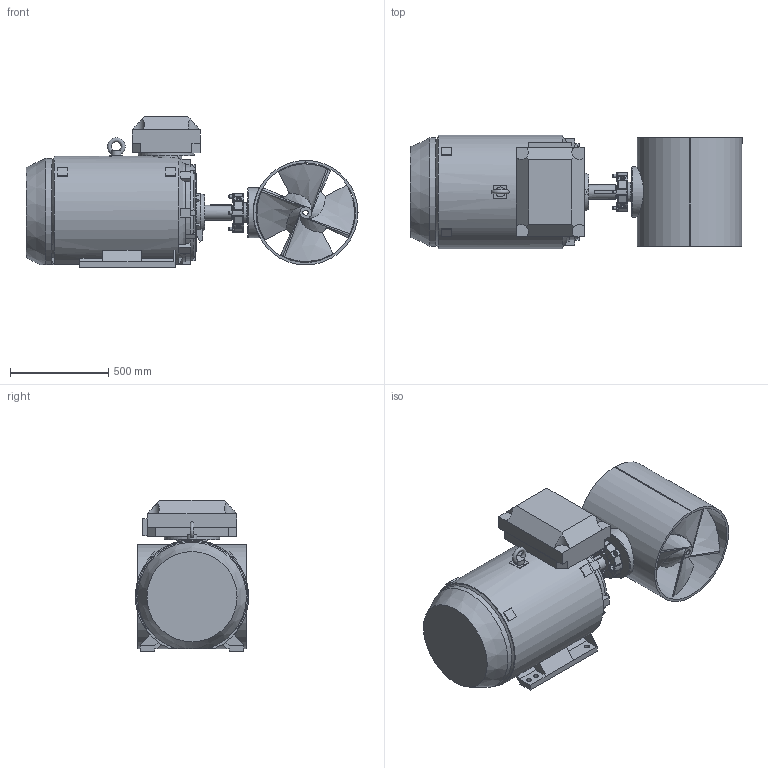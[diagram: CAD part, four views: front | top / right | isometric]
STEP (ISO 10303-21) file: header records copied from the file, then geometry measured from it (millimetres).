
FILE_DESCRIPTION(/* description */ (''),/* implementation_level */ '2;1');
FILE_NAME(/* name */ 'Q:\THRUSTERS\THRUSTER SALES & SUPPORT DOCS\THRUSTER Sales\E-T\E-0500-T\E-0500-T.stp',/* time_stamp */ '2021-01-27T16:46:03+00:00',/* author */ ('Barney.Webborn'),/* organization */ (''),/* preprocessor_version */ 'ST-DEVELOPER v17.2',/* originating_system */ 'Autodesk Inventor 2019',/* authorisation */ '');
FILE_SCHEMA (('AUTOMOTIVE_DESIGN { 1 0 10303 214 3 1 1 }'));
Products named in the file (1): E-0500-T_Shrinkwrap_1
Bounding box: 1693.37 x 577.66 x 771 mm (x, y, z)
Volume: 269864653.3 mm3; surface area: 6668436.7 mm2
Topology: 11 solids, 27 shells, 1731 faces, 4418 edges, 2738 vertices
Faces by surface type: cylinder 622, plane 585, bspline 186, torus 181, cone 109, sphere 48
Full cylindrical faces by diameter (mm): 13.835 x8, 15 x1, 15.999 x8, 16.002 x8, 16.561 x4, 18.25 x2, 23.79 x8, 24 x6, 25.146 x4, 25.4 x4, 29.21 x4, 30 x4, 35 x3, 50 x1, 66 x2, 75 x1, 80 x1, 100 x3, 115 x1, 116 x1, 157 x1, 166 x1, 168 x2, 195 x1, 210 x2, 235 x2, 256 x1, 284 x1, 398 x1
Entity records: 71137 total; most frequent: CARTESIAN_POINT 28117, ORIENTED_EDGE 8744, DIRECTION 8705, EDGE_CURVE 4398, AXIS2_PLACEMENT_3D 3481, VERTEX_POINT 2738, CIRCLE 1863, EDGE_LOOP 1838
